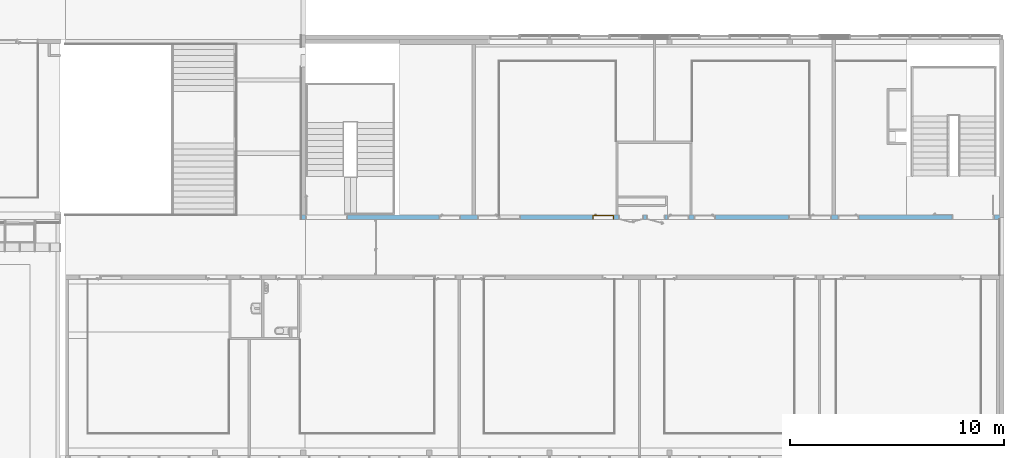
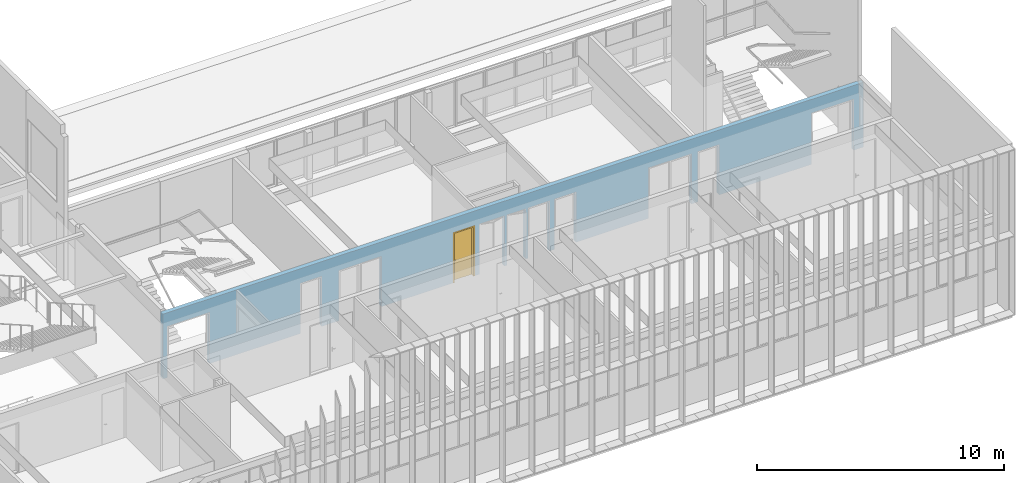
# One storey, part 84 of 106: 1 door, 13 openings, plus 1 element that does not belong to this part.
"""IFC2X3 building model written with IfcOpenShell, lengths in centimetres."""

import ifcopenshell
import ifcopenshell.guid

model = None  # the IFC model being written
_history = None  # IfcOwnerHistory: only IFC2X3 demands one
_inside = {}  # id of a spatial element -> (the spatial element, [elements in it])
_under = {}  # id of a project, library or spatial element -> (it, [spatial elements below it])
_declared = {}  # id of a project -> (the project, [libraries it declares])
_typed = {}  # id of a type object -> (the type object, [elements of that type])
_made_of = {}  # id of a material, layer set ... -> (it, [elements and type objects made of it])


def new_model(schema):
    """Start an empty IFC model of exactly this schema.

    Asked for "IFC4X3", IfcOpenShell would pick the latest addendum, in which some entities
    have other attributes; the version numbers below select the first issue.
    IFC2X3 requires an IfcOwnerHistory on every rooted entity: one is made here for all.
    """
    global model, _history
    if schema == "IFC4X3":
        model = ifcopenshell.file(schema_version=(4, 3, 0, 0))
    else:
        model = ifcopenshell.file(schema=schema)
    _inside.clear()
    _under.clear()
    _declared.clear()
    _typed.clear()
    _made_of.clear()
    _history = None
    if model.schema == "IFC2X3":
        org = make("IfcOrganization", Name="unknown")
        user = make(
            "IfcPersonAndOrganization",
            ThePerson=make("IfcPerson", FamilyName="unknown"),
            TheOrganization=org,
        )
        app = make(
            "IfcApplication",
            ApplicationDeveloper=org,
            Version="unknown",
            ApplicationFullName="unknown",
            ApplicationIdentifier="unknown",
        )
        _history = make(
            "IfcOwnerHistory",
            OwningUser=user,
            OwningApplication=app,
            ChangeAction="ADDED",
            CreationDate=0,
        )
    return model


def make(cls, **values):
    """One entity of the class cls with the attributes given. An attribute that is None is left unset."""
    return model.create_entity(
        cls, **{name: value for name, value in values.items() if value is not None}
    )


def entity(cls, *values):
    """Any entity or typed value of the class cls, its attributes in the order of the schema. None: left unset."""
    e = model.create_entity(cls)
    for i, value in enumerate(values):
        if value is not None:
            e[i] = value
    return e


def rooted(cls, **values):
    """An entity with a GlobalId (a new one), such as an element, a storey or a relation."""
    return make(cls, GlobalId=ifcopenshell.guid.new(), OwnerHistory=_history, **values)


def si_unit(unit_type, name, prefix=None):
    """IfcSIUnit, for example si_unit("LENGTHUNIT", "METRE", prefix="MILLI")."""
    return make("IfcSIUnit", UnitType=unit_type, Prefix=prefix, Name=name)


def converted_unit(unit_type, name, factor, base, dimensions=None, offset=None):
    """IfcConversionBasedUnit, such as the inch: factor (a typed value) times the base unit."""
    return make(
        "IfcConversionBasedUnit"
        if offset is None
        else "IfcConversionBasedUnitWithOffset",
        ConversionOffset=offset,
        Dimensions=None
        if dimensions is None
        else entity("IfcDimensionalExponents", *dimensions),
        UnitType=unit_type,
        Name=name,
        ConversionFactor=make(
            "IfcMeasureWithUnit", ValueComponent=factor, UnitComponent=base
        ),
    )


def derived_unit(unit_type, elements):
    """IfcDerivedUnit: a product of units, each with its exponent."""
    return make(
        "IfcDerivedUnit",
        Elements=[
            make("IfcDerivedUnitElement", Unit=unit, Exponent=power)
            for unit, power in elements
        ],
        UnitType=unit_type,
    )


def assignment(units):
    """IfcUnitAssignment: the units of a project."""
    return None if units is None else make("IfcUnitAssignment", Units=units)


def point(xyz):
    """IfcCartesianPoint."""
    return None if xyz is None else make("IfcCartesianPoint", Coordinates=xyz)


def direction(xyz):
    """IfcDirection."""
    return None if xyz is None else make("IfcDirection", DirectionRatios=xyz)


def frame(location, z_axis=None, x_axis=None):
    """IfcAxis2Placement3D, a coordinate frame: its origin and axes. An axis left out is left unset."""
    return make(
        "IfcAxis2Placement3D",
        Location=point(location),
        Axis=direction(z_axis),
        RefDirection=direction(x_axis),
    )


def frame_2d(location, x_axis=None):
    """IfcAxis2Placement2D, a coordinate frame in the plane: its origin and x axis."""
    return make(
        "IfcAxis2Placement2D", Location=point(location), RefDirection=direction(x_axis)
    )


def origin():
    """The frame at (0, 0, 0) with its axes left unset."""
    return frame((0.0, 0.0, 0.0))


def place(relative_to, where):
    """IfcLocalPlacement: puts the frame where relative to a parent placement (None: the world)."""
    return make(
        "IfcLocalPlacement", PlacementRelTo=relative_to, RelativePlacement=where
    )


def context(
    kind, dimensions, precision=None, world=None, true_north=None, identifier=None
):
    """IfcGeometricRepresentationContext, for example the 3D "Model" context."""
    return make(
        "IfcGeometricRepresentationContext",
        ContextIdentifier=identifier,
        ContextType=kind,
        CoordinateSpaceDimension=dimensions,
        Precision=precision,
        WorldCoordinateSystem=world,
        TrueNorth=true_north,
    )


def subcontext(parent, identifier, kind, view, scale=None):
    """IfcGeometricRepresentationSubContext, for example "Body" below "Model"."""
    return make(
        "IfcGeometricRepresentationSubContext",
        ContextIdentifier=identifier,
        ContextType=kind,
        ParentContext=parent,
        TargetScale=scale,
        TargetView=view,
    )


def project(units=None, contexts=None):
    """IfcProject with its units and contexts."""
    return rooted(
        "IfcProject",
        Name="project",
        RepresentationContexts=contexts,
        UnitsInContext=assignment(units),
    )


def spatial(cls, under=None, at=None, **own):
    """A site, building, storey or space (cls), placed at a placement, below another one or the project."""
    s = rooted(cls, ObjectPlacement=at, **own)
    if under is not None:
        _under.setdefault(under.id(), (under, []))[1].append(s)
    return s


def polyline(points):
    """IfcPolyline through the points."""
    return make("IfcPolyline", Points=[point(p) for p in points])


def profile(cls, at=None, kind="AREA", **sizes):
    """A parametric profile (cls). Its sizes go by their IFC names, for example OverallWidth=200.0."""
    return make(cls, ProfileType=kind, Position=at, **sizes)


def rectangle(**sizes):
    """IfcRectangleProfileDef."""
    return profile("IfcRectangleProfileDef", **sizes)


def extrude(swept, where, along, depth):
    """IfcExtrudedAreaSolid: the profile swept, set in the frame where, extruded along a direction by depth."""
    return make(
        "IfcExtrudedAreaSolid",
        SweptArea=swept,
        Position=where,
        ExtrudedDirection=direction(along),
        Depth=depth,
    )


def clip(a, b, op="DIFFERENCE"):
    """IfcBooleanClippingResult: the solid a cut by the half space b."""
    return make(
        "IfcBooleanClippingResult", Operator=op, FirstOperand=a, SecondOperand=b
    )


def bounded_halfspace(plane, agree, where, boundary):
    """IfcPolygonalBoundedHalfSpace: a half space limited to a polygon's prism."""
    return make(
        "IfcPolygonalBoundedHalfSpace",
        BaseSurface=make("IfcPlane", Position=plane),
        AgreementFlag=agree,
        Position=where,
        PolygonalBoundary=boundary,
    )


def faces_of(points, faces, orient=None, outer=None):
    """IfcFace entities. A face is a list of loops; a loop is a list of indices into points, from 0.

    orient and outer hold one flag for each loop. By default every Orientation is true, the
    first loop of a face is its IfcFaceOuterBound and the others are IfcFaceBound.
    """
    made = []
    for i, loops in enumerate(faces):
        bounds = []
        for j, loop in enumerate(loops):
            is_outer = j == 0 if outer is None else outer[i][j]
            bounds.append(
                make(
                    "IfcFaceOuterBound" if is_outer else "IfcFaceBound",
                    Bound=make("IfcPolyLoop", Polygon=[points[k] for k in loop]),
                    Orientation=True if orient is None else orient[i][j],
                )
            )
        made.append(make("IfcFace", Bounds=bounds))
    return made


def faceted_brep(points, faces, orient=None, outer=None, voids=None):
    """IfcFacetedBrep: a solid bounded by flat faces; with voids (closed shells), ...WithVoids."""
    shared = [point(p) for p in points]
    hull = make("IfcClosedShell", CfsFaces=faces_of(shared, faces, orient, outer))
    if voids is None:
        return make("IfcFacetedBrep", Outer=hull)
    return make(
        "IfcFacetedBrepWithVoids",
        Outer=hull,
        Voids=[
            make(cls, CfsFaces=faces_of(shared, fs, o, b)) for cls, fs, o, b in voids
        ],
    )


def shape(context_of_items, identifier, shape_type, items):
    """IfcShapeRepresentation: the items that make up one representation, for example the "Body"."""
    return make(
        "IfcShapeRepresentation",
        ContextOfItems=context_of_items,
        RepresentationIdentifier=identifier,
        RepresentationType=shape_type,
        Items=items,
    )


def source(mapping_origin, context_of_items, identifier, shape_type, items):
    """IfcRepresentationMap: a shape defined once, which mapped items show again and again."""
    return make(
        "IfcRepresentationMap",
        MappingOrigin=mapping_origin,
        MappedRepresentation=shape(context_of_items, identifier, shape_type, items),
    )


def transform(
    local_origin,
    x_axis=None,
    y_axis=None,
    z_axis=None,
    scale=None,
    scale2=None,
    scale3=None,
    uniform=True,
):
    """IfcCartesianTransformationOperator3D, or its non-uniform kind. x_axis, y_axis, z_axis: its Axis1, 2, 3."""
    if uniform:
        return make(
            "IfcCartesianTransformationOperator3D",
            Axis1=direction(x_axis),
            Axis2=direction(y_axis),
            LocalOrigin=point(local_origin),
            Scale=scale,
            Axis3=direction(z_axis),
        )
    return make(
        "IfcCartesianTransformationOperator3DnonUniform",
        Axis1=direction(x_axis),
        Axis2=direction(y_axis),
        LocalOrigin=point(local_origin),
        Scale=scale,
        Axis3=direction(z_axis),
        Scale2=scale2,
        Scale3=scale3,
    )


def mapped(mapping_source, mapping_target):
    """IfcMappedItem: shows the shape of a source again, moved by a transform."""
    return make(
        "IfcMappedItem", MappingSource=mapping_source, MappingTarget=mapping_target
    )


def material(Name=None, Category=None):
    """IfcMaterial."""
    return make("IfcMaterial", Name=Name, Category=Category)


def material_list(materials):
    """IfcMaterialList."""
    return make("IfcMaterialList", Materials=materials)


def layer(
    of_material, thickness, ventilated=None, Name=None, Category=None, Priority=None
):
    """IfcMaterialLayer: one layer of a wall or slab, of a material (None: an air gap)."""
    return make(
        "IfcMaterialLayer",
        Material=of_material,
        LayerThickness=thickness,
        IsVentilated=ventilated,
        Name=Name,
        Category=Category,
        Priority=Priority,
    )


def layer_set(layers, Name=None):
    """IfcMaterialLayerSet."""
    return make("IfcMaterialLayerSet", MaterialLayers=layers, LayerSetName=Name)


def layer_usage(for_layer_set, set_direction, sense, offset, extent=None):
    """IfcMaterialLayerSetUsage: how a layer set lies in its element."""
    return make(
        "IfcMaterialLayerSetUsage",
        ForLayerSet=for_layer_set,
        LayerSetDirection=set_direction,
        DirectionSense=sense,
        OffsetFromReferenceLine=offset,
        ReferenceExtent=extent,
    )


def made_of(thing, what):
    """Note that an element or type object is made of a material, layer set ...; save() writes the relation."""
    if what is not None:
        _made_of.setdefault(what.id(), (what, []))[1].append(thing)
    return thing


def type_object(cls, material=None, **own):
    """A type object (cls), such as IfcWallType, which elements share."""
    return made_of(rooted(cls, **own), material)


def type_shapes(of_type, sources):
    """Give a type object the sources (RepresentationMaps) that its elements show as mapped items."""
    of_type.RepresentationMaps = sources


def element(
    cls,
    number,
    at=None,
    inside=None,
    cuts=None,
    type_object=None,
    material=None,
    context=None,
    identifier="Body",
    shape_type=None,
    held_by="IfcProductDefinitionShape",
    body=None,
    shapes=None,
    **own,
):
    """One element of the class cls, such as IfcWall. Its Tag is "e" and its number.

    at: its placement. inside: the storey or other place that contains it. cuts: it is an
    opening in that element (IfcRelVoidsElement). A single representation is given by context,
    identifier, shape_type and body (its items); several are given by shapes. held_by: the class
    of the entity that holds the representations. save() writes the other relations.
    """
    e = rooted(cls, Tag="e%d" % number, ObjectPlacement=at, **own)
    if body is not None:
        shapes = [shape(context, identifier, shape_type, body)]
    if shapes is not None:
        e.Representation = make(held_by, Representations=shapes)
    if inside is not None:
        _inside.setdefault(inside.id(), (inside, []))[1].append(e)
    if cuts is not None:
        rooted(
            "IfcRelVoidsElement", RelatingBuildingElement=cuts, RelatedOpeningElement=e
        )
    if type_object is not None:
        _typed.setdefault(type_object.id(), (type_object, []))[1].append(e)
    return made_of(e, material)


def fill(opening, filler):
    """IfcRelFillsElement: the door or window that sits in an opening."""
    return rooted(
        "IfcRelFillsElement",
        RelatingOpeningElement=opening,
        RelatedBuildingElement=filler,
    )


def aggregate(whole, parts):
    """IfcRelAggregates: a whole, such as a stair, and the parts it consists of."""
    return rooted("IfcRelAggregates", RelatingObject=whole, RelatedObjects=parts)


def save(model, path):
    """Write the relations noted so far, then the file.

    IfcRelAggregates (storeys below a building ...), IfcRelContainedInSpatialStructure (elements
    in a storey), IfcRelDefinesByType, IfcRelAssociatesMaterial and IfcRelDeclares: one each for
    every whole, place, type object, material and project.
    """
    for whole, parts in _under.values():
        aggregate(whole, parts)
    for where, things in _inside.values():
        rooted(
            "IfcRelContainedInSpatialStructure",
            RelatedElements=things,
            RelatingStructure=where,
        )
    for kind, things in _typed.values():
        rooted("IfcRelDefinesByType", RelatedObjects=things, RelatingType=kind)
    for what, things in _made_of.values():
        rooted("IfcRelAssociatesMaterial", RelatedObjects=things, RelatingMaterial=what)
    for by, libraries in _declared.values():
        rooted("IfcRelDeclares", RelatingContext=by, RelatedDefinitions=libraries)
    model.write(path)


model = new_model("IFC2X3")

# Units and contexts
model_context = context("Model", 3, precision=0.001, world=origin(), true_north=direction((6.12303176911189e-17, 1.0)))
body_context = subcontext(model_context, "Body", "Model", "MODEL_VIEW")
ifc_project = project(units=[si_unit("LENGTHUNIT", "METRE", prefix="CENTI"), si_unit("AREAUNIT", "SQUARE_METRE"), si_unit("VOLUMEUNIT", "CUBIC_METRE"), converted_unit("PLANEANGLEUNIT", "DEGREE", entity("IfcRatioMeasure", 0.0174532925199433), si_unit("PLANEANGLEUNIT", "RADIAN"), dimensions=[0, 0, 0, 0, 0, 0, 0]), si_unit("MASSUNIT", "GRAM", prefix="KILO"), derived_unit("MASSDENSITYUNIT", [(si_unit("MASSUNIT", "GRAM", prefix="KILO"), 1), (si_unit("LENGTHUNIT", "METRE"), -3)]), si_unit("TIMEUNIT", "SECOND"), si_unit("FREQUENCYUNIT", "HERTZ"), si_unit("THERMODYNAMICTEMPERATUREUNIT", "DEGREE_CELSIUS"), derived_unit("THERMALTRANSMITTANCEUNIT", [(si_unit("MASSUNIT", "GRAM", prefix="KILO"), 1), (si_unit("THERMODYNAMICTEMPERATUREUNIT", "KELVIN"), -1), (si_unit("TIMEUNIT", "SECOND"), -3)]), derived_unit("VOLUMETRICFLOWRATEUNIT", [(si_unit("LENGTHUNIT", "METRE"), 3), (si_unit("TIMEUNIT", "SECOND"), -1)]), si_unit("ELECTRICCURRENTUNIT", "AMPERE"), si_unit("ELECTRICVOLTAGEUNIT", "VOLT"), si_unit("POWERUNIT", "WATT"), si_unit("FORCEUNIT", "NEWTON", prefix="KILO"), si_unit("ILLUMINANCEUNIT", "LUX"), si_unit("LUMINOUSFLUXUNIT", "LUMEN"), si_unit("LUMINOUSINTENSITYUNIT", "CANDELA"), derived_unit("USERDEFINED", [(si_unit("MASSUNIT", "GRAM", prefix="KILO"), -1), (si_unit("LENGTHUNIT", "METRE"), -2), (si_unit("TIMEUNIT", "SECOND"), 3), (si_unit("LUMINOUSFLUXUNIT", "LUMEN"), 1)]), derived_unit("LINEARVELOCITYUNIT", [(si_unit("LENGTHUNIT", "METRE"), 1), (si_unit("TIMEUNIT", "SECOND"), -1)]), si_unit("PRESSUREUNIT", "PASCAL"), derived_unit("USERDEFINED", [(si_unit("LENGTHUNIT", "METRE"), -2), (si_unit("MASSUNIT", "GRAM", prefix="KILO"), 1), (si_unit("TIMEUNIT", "SECOND"), -2)])], contexts=[model_context])

# Site, building, storey
site_placement = place(None, frame((-2781.94577612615, 7442.24238424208, 0.0)))
site = spatial("IfcSite", under=ifc_project, at=site_placement, Name="Default", CompositionType="ELEMENT")
building_placement = place(site_placement, origin())
building = spatial("IfcBuilding", under=site, at=building_placement, CompositionType="ELEMENT")
storey_placement = place(building_placement, frame((0.0, 0.0, 422.0)))
storey = spatial("IfcBuildingStorey", under=building, at=storey_placement, Name="Toiture - Cuisine", CompositionType="ELEMENT", Elevation=421.999999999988)

# Wall, openings, door
ifc_material_1 = material(Name="01 - Maçonnerie")
ifc_layer = layer(ifc_material_1, 20.0)
ifc_layer_set = layer_set([ifc_layer], Name="Mur de base:04 - Structure - béton - 20cm")
ifc_layer_usage = layer_usage(ifc_layer_set, "AXIS2", "NEGATIVE", 10.0)
wall_type = type_object("IfcWallType", Name="Mur de base:04 - Structure - béton - 20cm", PredefinedType="STANDARD", material=ifc_layer_set)
wall_placement = place(building_placement, frame((-3667.99987968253, -1920.07903364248, 422.0)))
wall = element("IfcWallStandardCase", 1, at=wall_placement, inside=storey, type_object=wall_type, material=ifc_layer_usage, Name="Mur de base:04 - Structure - béton - 20cm", ObjectType="Mur de base:04 - Structure - béton - 20cm", context=body_context, shape_type="Clipping", body=[
    clip(clip(extrude(rectangle(XDim=3277.99999684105, YDim=19.9999999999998, at=frame_2d((1638.99999842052, 6.21724893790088e-14), x_axis=(-1.0, 0.0))), origin(), (0.0, 0.0, 1.0), 321.0), bounded_halfspace(frame((0.0, -10.0, 321.0), z_axis=(0.0, 0.0, -1.0), x_axis=(0.0, 1.0, 0.0)), True, frame((0.0, -10.0, 321.0)), polyline([(0.0, 0.0), (20.0, 0.0), (20.0, 20.0), (0.0, 20.0), (0.0, 0.0)]))), bounded_halfspace(frame((458.699996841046, -10.0, 321.0), z_axis=(0.0, 0.0, -1.0), x_axis=(0.0, 1.0, 0.0)), True, frame((458.699996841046, -10.0, 321.0)), polyline([(0.0, 0.0), (2797.3, 0.0), (2799.29999999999, 0.0), (2799.29999999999, 10.0), (2799.29999999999, 20.0), (2034.0, 20.0), (2018.0, 20.0), (1914.0, 20.0), (1912.0, 20.0), (1363.8, 20.0), (1353.8, 20.0), (1249.8, 20.0), (1239.8, 20.0), (1149.8, 20.0), (1139.8, 20.0), (1019.8, 20.0), (1009.8, 20.0), (466.0, 20.0), (464.0, 20.0), (0.0, 20.0), (0.0, 0.0)]))),
])
opening_1_placement = place(wall_placement, frame((2502.69999684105, -10.0, 0.0)))
element("IfcOpeningElement", 2, at=opening_1_placement, cuts=wall, Name="Int. Simple:PP simple (0.93m x 2.50m):1", ObjectType="Opening", context=body_context, shape_type="SweptSolid", body=[
    extrude(rectangle(XDim=248.500000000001, YDim=99.9999999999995, at=frame_2d((124.250000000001, 49.9999999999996), x_axis=(1.0, 0.0))), frame((0.0, 0.0, 0.0), z_axis=(0.0, 1.0, 0.0), x_axis=(0.0, 0.0, 1.0)), (0.0, 0.0, 1.0), 20.0),
])
opening_2_placement = place(wall_placement, frame((2372.69999684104, -10.0, 0.0)))
element("IfcOpeningElement", 3, at=opening_2_placement, cuts=wall, Name="Int. Simple:PV (0.93m x 2.50m):1", ObjectType="Opening", context=body_context, shape_type="SweptSolid", body=[
    extrude(rectangle(XDim=248.500000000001, YDim=99.9999999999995, at=frame_2d((124.250000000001, 49.9999999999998), x_axis=(1.0, 0.0))), frame((0.0, 0.0, 0.0), z_axis=(0.0, 1.0, 0.0), x_axis=(0.0, 0.0, 1.0)), (0.0, 0.0, 1.0), 20.0),
])
opening_3_placement = place(wall_placement, frame((1832.49999684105, -10.0, 0.0)))
element("IfcOpeningElement", 4, at=opening_3_placement, cuts=wall, Name="Int. Simple:PV (0.93m x 2.50m):1", ObjectType="Opening", context=body_context, shape_type="SweptSolid", body=[
    extrude(rectangle(XDim=248.500000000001, YDim=99.9999999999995, at=frame_2d((124.250000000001, 49.9999999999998), x_axis=(1.0, 0.0))), frame((0.0, 0.0, 0.0), z_axis=(0.0, 1.0, 0.0), x_axis=(0.0, 0.0, 1.0)), (0.0, 0.0, 1.0), 20.0),
])
opening_4_placement = place(wall_placement, frame((1708.49999684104, -10.0, 0.0)))
element("IfcOpeningElement", 5, at=opening_4_placement, cuts=wall, Name="Int. Simple:PP simple (0.93m x 2.50m):1", ObjectType="Opening", context=body_context, shape_type="SweptSolid", body=[
    extrude(rectangle(XDim=248.500000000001, YDim=99.9999999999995, at=frame_2d((124.250000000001, 49.9999999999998), x_axis=(1.0, 0.0))), frame((0.0, 0.0, 0.0), z_axis=(0.0, 1.0, 0.0), x_axis=(0.0, 0.0, 1.0)), (0.0, 0.0, 1.0), 20.0),
])
opening_5_placement = place(wall_placement, frame((1358.49999684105, -10.0, 0.0)))
opening_5 = element("IfcOpeningElement", 6, at=opening_5_placement, cuts=wall, Name="Int. Simple:PV (0.93m x 2.50m):1", ObjectType="Opening", context=body_context, shape_type="SweptSolid", body=[
    extrude(rectangle(XDim=248.500000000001, YDim=99.9999999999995, at=frame_2d((124.250000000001, 49.9999999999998), x_axis=(1.0, 0.0))), frame((0.0, 0.0, 0.0), z_axis=(0.0, 1.0, 0.0), x_axis=(0.0, 0.0, 1.0)), (0.0, 0.0, 1.0), 20.0),
])
opening_6_placement = place(wall_placement, frame((822.699996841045, -10.0, 0.0)))
element("IfcOpeningElement", 7, at=opening_6_placement, cuts=wall, Name="Int. Simple:PV (0.93m x 2.50m):1", ObjectType="Opening", context=body_context, shape_type="SweptSolid", body=[
    extrude(rectangle(XDim=248.500000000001, YDim=99.9999999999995, at=frame_2d((124.250000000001, 49.9999999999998), x_axis=(1.0, 0.0))), frame((0.0, 0.0, 0.0), z_axis=(0.0, 1.0, 0.0), x_axis=(0.0, 0.0, 1.0)), (0.0, 0.0, 1.0), 20.0),
])
opening_7_placement = place(wall_placement, frame((642.699996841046, -10.0, 0.0)))
element("IfcOpeningElement", 8, at=opening_7_placement, cuts=wall, Name="Int. Simple:PP simple (0.93m x 2.50m):1", ObjectType="Opening", context=body_context, shape_type="SweptSolid", body=[
    extrude(rectangle(XDim=248.500000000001, YDim=99.9999999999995, at=frame_2d((124.250000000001, 49.9999999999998), x_axis=(1.0, 0.0))), frame((0.0, 0.0, 0.0), z_axis=(0.0, 1.0, 0.0), x_axis=(0.0, 0.0, 1.0)), (0.0, 0.0, 1.0), 20.0),
])
opening_8_placement = place(wall_placement, frame((2272.69999684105, -10.0, 0.0)))
element("IfcOpeningElement", 9, at=opening_8_placement, cuts=wall, Name="châssis intérieur vitré:châssis intérieur vitré (h=270) R+1:1", ObjectType="Opening", context=body_context, shape_type="SweptSolid", body=[
    extrude(rectangle(XDim=250.0, YDim=99.9999999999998, at=frame_2d((125.0, 49.9999999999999), x_axis=(1.0, 0.0))), frame((0.0, 0.0, 0.0), z_axis=(0.0, 1.0, 0.0), x_axis=(0.0, 0.0, 1.0)), (0.0, 0.0, 1.0), 20.0),
])
opening_9_placement = place(wall_placement, frame((922.699996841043, -10.0, 0.0)))
element("IfcOpeningElement", 10, at=opening_9_placement, cuts=wall, Name="châssis intérieur vitré:châssis intérieur vitré (h=270) R+1:1", ObjectType="Opening", context=body_context, shape_type="SweptSolid", body=[
    extrude(rectangle(XDim=250.0, YDim=99.9999999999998, at=frame_2d((125.0, 49.9999999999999), x_axis=(1.0, 0.0))), frame((0.0, 0.0, 0.0), z_axis=(0.0, 1.0, 0.0), x_axis=(0.0, 0.0, 1.0)), (0.0, 0.0, 1.0), 20.0),
])
opening_10_placement = place(wall_placement, frame((1697.0, 10.0, 0.0)))
element("IfcOpeningElement", 11, at=opening_10_placement, cuts=wall, Name="Int. Simple:PP Placard (0.80m x 2.50m):1", ObjectType="Opening", context=body_context, shape_type="SweptSolid", body=[
    extrude(rectangle(XDim=248.500000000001, YDim=86.9999999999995, at=frame_2d((124.250000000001, 43.4999999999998), x_axis=(1.0, 0.0))), frame((0.0, 0.0, 0.0), z_axis=(0.0, -1.0, 0.0), x_axis=(0.0, 0.0, 1.0)), (0.0, 0.0, 1.0), 20.0),
])
opening_11_placement = place(wall_placement, frame((1597.0, 10.0, 0.0)))
element("IfcOpeningElement", 12, at=opening_11_placement, cuts=wall, Name="Int. Double:PP Placard (1.10m x 2.50m):1", ObjectType="Opening", context=body_context, shape_type="SweptSolid", body=[
    extrude(rectangle(XDim=248.500000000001, YDim=117.0, at=frame_2d((124.250000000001, 58.5000000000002), x_axis=(1.0, 0.0))), frame((0.0, 0.0, 0.0), z_axis=(0.0, -1.0, 0.0), x_axis=(0.0, 0.0, 1.0)), (0.0, 0.0, 1.0), 20.0),
])
opening_12_placement = place(wall_placement, frame((3035.69999684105, -10.0, 0.0)))
element("IfcOpeningElement", 13, at=opening_12_placement, cuts=wall, Name="Int. Double:PP (1.90m x 2.50m):1", ObjectType="Opening", context=body_context, shape_type="SweptSolid", body=[
    extrude(rectangle(XDim=253.500000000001, YDim=197.0, at=frame_2d((126.750000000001, 98.5000000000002), x_axis=(1.0, 0.0))), frame((0.0, 0.0, 0.0), z_axis=(0.0, 1.0, 0.0), x_axis=(0.0, 0.0, 1.0)), (0.0, 0.0, 1.0), 20.0),
])
opening_13_placement = place(wall_placement, frame((20.0, -10.0, 0.0)))
element("IfcOpeningElement", 14, at=opening_13_placement, cuts=wall, Name="Int. Double:PP (1.90m x 2.50m):1", ObjectType="Opening", context=body_context, shape_type="SweptSolid", body=[
    extrude(rectangle(XDim=253.500000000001, YDim=197.0, at=frame_2d((126.750000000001, 98.5), x_axis=(1.0, 0.0))), frame((0.0, 0.0, 0.0), z_axis=(0.0, 1.0, 0.0), x_axis=(0.0, 0.0, 1.0)), (0.0, 0.0, 1.0), 20.0),
])
ifc_material_2 = material(Name="Finition Peinture - Blanc satiné")
ifc_material_3 = material(Name="Bois - Panneau de porte")
ifc_material_4 = material(Name="Bois - Cadre de porte")
ifc_material_list_1 = material_list([ifc_material_2, ifc_material_3, ifc_material_4])
ifc_material_list_2 = material_list([ifc_material_2, ifc_material_3, ifc_material_4])
door_style = type_object("IfcDoorStyle", Name="PV (0.93m x 2.50m)", ConstructionType="NOTDEFINED", OperationType="SINGLE_SWING_RIGHT", ParameterTakesPrecedence=False, Sizeable=False, material=ifc_material_list_2)
shared_shape = source(origin(), body_context, "Body", "Brep", [
    faceted_brep([(99.5000000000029, -0.500000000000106, 87.0), (99.5000000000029, -0.500000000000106, 108.0), (98.535276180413, -0.500000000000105, 108.399601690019), (97.5000000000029, -0.500000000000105, 108.535898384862), (96.4647238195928, -0.500000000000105, 108.399601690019), (95.500000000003, -0.500000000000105, 108.0), (95.5000000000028, -0.500000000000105, 87.0), (96.4647238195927, -0.500000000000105, 86.6003983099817), (97.5000000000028, -0.500000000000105, 86.464101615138), (98.5352761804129, -0.500000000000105, 86.6003983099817), (99.5000000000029, 0.0, 108.0), (99.5000000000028, 0.0, 87.0), (98.5352761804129, 0.0, 86.6003983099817), (97.5000000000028, 0.0, 86.464101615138), (96.4647238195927, 0.0, 86.6003983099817), (95.5000000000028, 0.0, 87.0), (95.5000000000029, 0.0, 108.0), (96.4647238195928, 0.0, 108.399601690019), (97.5000000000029, 0.0, 108.535898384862), (98.535276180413, 0.0, 108.399601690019)], [[[0, 1, 2, 3, 4, 5, 6, 7, 8, 9]], [[10, 11, 12, 13, 14, 15, 16, 17, 18, 19]], [[9, 12, 11, 0]], [[8, 13, 12, 9]], [[7, 14, 13, 8]], [[7, 6, 15, 14]], [[15, 6, 5, 16]], [[4, 17, 16, 5]], [[3, 18, 17, 4]], [[2, 19, 18, 3]], [[2, 1, 10, 19]], [[11, 10, 1, 0]]]),
    faceted_brep([(99.5000000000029, 4.0, 87.0), (99.5000000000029, 4.0, 108.0), (98.535276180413, 4.0, 108.399601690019), (97.5000000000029, 4.0, 108.535898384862), (96.4647238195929, 4.0, 108.399601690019), (95.500000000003, 4.0, 108.0), (95.5000000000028, 4.0, 87.0), (96.4647238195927, 4.0, 86.6003983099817), (97.5000000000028, 4.0, 86.464101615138), (98.5352761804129, 4.0, 86.6003983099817), (97.5000000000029, 4.49999999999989, 108.535898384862), (98.535276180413, 4.49999999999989, 108.399601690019), (99.5000000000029, 4.49999999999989, 108.0), (99.5000000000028, 4.49999999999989, 87.0), (98.5352761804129, 4.49999999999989, 86.6003983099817), (97.5000000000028, 4.49999999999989, 86.464101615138), (96.4647238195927, 4.49999999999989, 86.6003983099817), (95.5000000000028, 4.49999999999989, 87.0), (95.500000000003, 4.49999999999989, 108.0), (96.4647238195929, 4.49999999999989, 108.399601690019)], [[[0, 1, 2, 3, 4, 5, 6, 7, 8, 9]], [[10, 11, 12, 13, 14, 15, 16, 17, 18, 19]], [[4, 19, 18, 5]], [[3, 10, 19, 4]], [[2, 11, 10, 3]], [[2, 1, 12, 11]], [[13, 12, 1, 0]], [[9, 14, 13, 0]], [[8, 15, 14, 9]], [[7, 16, 15, 8]], [[7, 6, 17, 16]], [[17, 6, 5, 18]]]),
    faceted_brep([(97.2974701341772, -0.500000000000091, 100.778044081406), (97.7025298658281, -0.500000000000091, 100.778044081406), (98.1000000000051, -0.500000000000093, 100.699999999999), (98.100000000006, -0.500000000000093, 99.2999999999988), (97.7025298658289, -0.500000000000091, 99.221955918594), (97.297470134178, -0.500000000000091, 99.2219559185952), (96.9000000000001, -0.500000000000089, 99.3000000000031), (96.9000000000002, -0.500000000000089, 100.7), (97.7025298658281, -3.10045754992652, 100.778044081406), (98.1000000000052, -3.26509507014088, 100.7), (97.2974701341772, -2.93267631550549, 100.778044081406), (95.9298602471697, -4.30028620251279, 100.778044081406), (96.0976414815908, -4.70534593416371, 100.778044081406), (96.9000000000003, -2.76803879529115, 100.7), (96.9000000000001, -2.76803879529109, 99.3000000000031), (97.297470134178, -2.93267631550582, 99.2219559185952), (97.7025298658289, -3.10045754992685, 99.221955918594), (96.0976414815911, -4.70534593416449, 99.221955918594), (95.9298602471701, -4.30028620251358, 99.2219559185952), (98.100000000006, -3.26509507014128, 99.2999999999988), (96.2622790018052, -5.1028160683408, 100.7), (95.7652227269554, -3.90281606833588, 100.7), (95.7652227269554, -3.90281606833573, 99.3000000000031), (96.2622790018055, -5.10281606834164, 99.2999999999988), (87.4981359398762, -5.10281606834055, 100.7), (87.4981359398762, -4.70534593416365, 100.778044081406), (87.4981359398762, -4.30028620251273, 100.778044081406), (87.4981359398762, -3.90281606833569, 100.699999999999), (87.4981359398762, -3.90281606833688, 99.3000000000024), (87.4981359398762, -4.30028620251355, 99.2219559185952), (87.4981359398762, -4.70534593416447, 99.221955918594), (87.4981359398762, -5.10281606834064, 99.2999999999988), (91.7139980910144, -4.5028160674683, 100.78786867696), (92.2692302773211, -5.1028160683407, 100.7), (91.6316793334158, -3.9028160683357, 100.7), (91.631679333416, -3.90281606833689, 99.3000000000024), (91.7139981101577, -4.50281607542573, 99.2121313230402), (92.2692310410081, -5.10281606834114, 99.2999999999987)], [[[0, 1, 2, 3, 4, 5, 6, 7]], [[2, 1, 8, 9]], [[1, 0, 10, 11, 12, 8]], [[0, 7, 13, 10]], [[14, 13, 7, 6]], [[5, 15, 14, 6]], [[5, 4, 16, 17, 18, 15]], [[3, 19, 16, 4]], [[9, 19, 3, 2]], [[9, 8, 12, 20]], [[10, 13, 21, 11]], [[22, 21, 13, 14]], [[14, 15, 18, 22]], [[16, 19, 23, 17]], [[20, 23, 19, 9]], [[24, 25, 26, 27, 28, 29, 30, 31]], [[32, 25, 33]], [[33, 25, 24]], [[33, 20, 12]], [[11, 34, 32]], [[34, 11, 21]], [[27, 26, 34]], [[32, 26, 25]], [[32, 34, 26]], [[32, 33, 12]], [[11, 32, 12]], [[21, 22, 35, 28, 27, 34]], [[36, 29, 35]], [[30, 36, 37]], [[18, 35, 22]], [[29, 28, 35]], [[30, 37, 31]], [[37, 17, 23]], [[36, 17, 37]], [[36, 18, 17]], [[36, 35, 18]], [[29, 36, 30]], [[23, 20, 33, 24, 31, 37]]]),
    faceted_brep([(97.2974701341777, 4.49999999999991, 99.2219559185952), (97.7025298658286, 4.49999999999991, 99.221955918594), (98.1000000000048, 4.4999999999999, 99.2999999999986), (98.1000000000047, 4.4999999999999, 100.7), (97.7025298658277, 4.49999999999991, 100.778044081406), (97.2974701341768, 4.49999999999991, 100.778044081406), (96.8999999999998, 4.49999999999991, 100.7), (96.900000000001, 4.49999999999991, 99.3000000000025), (96.8999999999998, 6.7485204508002, 100.7), (96.8999999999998, 6.74852045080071, 99.3000000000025), (97.2974701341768, 6.91315797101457, 100.778044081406), (97.7025298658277, 7.0809392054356, 100.778044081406), (96.0838906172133, 8.69957845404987, 100.778044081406), (95.9161093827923, 8.29451872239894, 100.778044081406), (98.1000000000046, 7.24557672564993, 100.7), (98.1000000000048, 7.24557672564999, 99.2999999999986), (97.7025298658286, 7.08093920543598, 99.221955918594), (97.2974701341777, 6.91315797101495, 99.2219559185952), (95.9161093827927, 8.29451872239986, 99.2219559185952), (96.0838906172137, 8.69957845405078, 99.221955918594), (95.751471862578, 7.89704858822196, 100.7), (95.7514718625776, 7.89704858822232, 99.3000000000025), (96.2485281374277, 9.09704858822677, 100.7), (96.2485281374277, 9.09704858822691, 99.2999999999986), (87.4954216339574, 8.29451872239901, 100.778044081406), (87.4954216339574, 8.69957845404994, 100.778044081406), (87.4954216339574, 9.09704858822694, 100.7), (87.4954216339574, 9.09704858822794, 99.2999999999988), (87.4954216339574, 8.6995784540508, 99.221955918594), (87.4954216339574, 8.29451872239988, 99.2219559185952), (87.4954216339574, 7.89704858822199, 99.3000000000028), (87.4954216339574, 7.89704858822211, 100.7), (91.6234467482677, 7.89704858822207, 100.7), (91.6234479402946, 7.89704858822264, 99.3000000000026), (91.7057655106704, 8.49704858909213, 100.78786867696), (92.255479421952, 9.09704858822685, 100.7), (92.2554795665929, 9.09704858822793, 99.2999999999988), (91.7057654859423, 8.49704858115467, 99.2121313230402)], [[[0, 1, 2, 3, 4, 5, 6, 7]], [[8, 9, 7, 6]], [[5, 10, 8, 6]], [[5, 4, 11, 12, 13, 10]], [[3, 14, 11, 4]], [[14, 3, 2, 15]], [[2, 1, 16, 15]], [[1, 0, 17, 18, 19, 16]], [[0, 7, 9, 17]], [[20, 21, 9, 8]], [[8, 10, 13, 20]], [[14, 22, 12, 11]], [[23, 22, 14, 15]], [[15, 16, 19, 23]], [[17, 9, 21, 18]], [[24, 25, 26, 27, 28, 29, 30, 31]], [[21, 20, 32, 31, 30, 33]], [[34, 24, 32]], [[25, 34, 35]], [[13, 32, 20]], [[24, 31, 32]], [[25, 35, 26]], [[35, 12, 22]], [[34, 12, 35]], [[34, 13, 12]], [[34, 32, 13]], [[24, 34, 25]], [[22, 23, 36, 27, 26, 35]], [[37, 28, 36]], [[36, 28, 27]], [[36, 23, 19]], [[18, 33, 37]], [[33, 18, 21]], [[30, 29, 33]], [[37, 29, 28]], [[37, 33, 29]], [[37, 36, 19]], [[18, 37, 19]]]),
    faceted_brep([(103.500000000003, 4.0, 245.0), (103.500000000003, 4.0, 0.0), (10.5000000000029, 4.0, 0.0), (10.5000000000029, 4.0, 245.0), (103.500000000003, 0.0, 245.0), (10.5000000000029, 0.0, 245.0), (10.5000000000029, 0.0, 0.0), (103.500000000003, 0.0, 0.0)], [[[0, 1, 2, 3]], [[4, 5, 6, 7]], [[3, 5, 4, 0]], [[2, 6, 5, 3]], [[1, 7, 6, 2]], [[0, 4, 7, 1]]]),
    faceted_brep([(107.0, 20.0, 0.0), (107.0, 0.0, 0.0), (108.500000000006, 0.0, 0.0), (108.500000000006, -0.500000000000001, 0.0), (103.500000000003, -0.500000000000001, 0.0), (103.500000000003, 4.0, 0.0), (102.0, 4.0, 0.0), (102.0, 20.5000000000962, 0.0), (108.500000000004, 20.5000000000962, 0.0), (108.500000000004, 20.0, 0.0), (108.500000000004, 20.0, 250.0), (5.50000000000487, 20.0, 250.0), (5.50000000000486, 20.0, 0.0), (7.0, 20.0, 0.0), (7.0, 20.0, 248.500000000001), (107.0, 20.0, 248.500000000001), (108.500000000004, 20.5000000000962, 250.0), (102.0, 20.5000000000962, 243.5), (12.0, 20.5000000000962, 243.5), (12.0, 20.5000000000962, 0.0), (5.50000000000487, 20.5000000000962, 0.0), (5.50000000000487, 20.5000000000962, 250.0), (102.0, 4.0, 243.5), (103.500000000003, 4.0, 245.0), (10.5000000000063, 4.0, 245.0), (10.5000000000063, 4.0, 0.0), (12.0, 4.0, 0.0), (12.0, 4.0, 243.5), (103.500000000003, -0.500000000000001, 245.0), (108.500000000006, -0.500000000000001, 250.0), (5.5000000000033, -0.500000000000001, 250.0), (5.50000000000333, -0.500000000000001, 0.0), (10.5000000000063, -0.500000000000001, 0.0), (10.5000000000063, -0.500000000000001, 245.0), (108.500000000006, 0.0, 250.0), (107.0, 0.0, 248.500000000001), (7.0, 0.0, 248.500000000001), (7.0, 0.0, 0.0), (5.5000000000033, 0.0, 0.0), (5.50000000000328, 0.0, 250.0)], [[[0, 1, 2, 3, 4, 5, 6, 7, 8, 9]], [[9, 10, 11, 12, 13, 14, 15, 0]], [[8, 16, 10, 9]], [[7, 17, 18, 19, 20, 21, 16, 8]], [[7, 6, 22, 17]], [[5, 23, 24, 25, 26, 27, 22, 6]], [[5, 4, 28, 23]], [[3, 29, 30, 31, 32, 33, 28, 4]], [[2, 34, 29, 3]], [[1, 35, 36, 37, 38, 39, 34, 2]], [[0, 15, 35, 1]], [[14, 13, 37, 36]], [[13, 12, 20, 19, 26, 25, 32, 31, 38, 37]], [[21, 20, 12, 11]], [[27, 26, 19, 18]], [[33, 32, 25, 24]], [[39, 38, 31, 30]], [[16, 21, 11, 10]], [[22, 27, 18, 17]], [[28, 33, 24, 23]], [[34, 39, 30, 29]], [[15, 14, 36, 35]]]),
])
type_shapes(door_style, [shared_shape])
door_placement = place(opening_5_placement, frame((107.0, 20.0, 0.0), z_axis=(0.0, 0.0, 1.0), x_axis=(-1.0, 0.0, 0.0)))
door = element("IfcDoor", 15, at=door_placement, inside=storey, type_object=door_style, material=ifc_material_list_1, Name="Int. Simple:PV (0.93m x 2.50m)", ObjectType="Int. Simple:PV (0.93m x 2.50m)", OverallHeight=248.500000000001, OverallWidth=99.9999999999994, context=body_context, shape_type="MappedRepresentation", body=[
    mapped(shared_shape, transform((0.0, 0.0, 0.0), scale=1.0)),
])
fill(opening_5, door)

save(model, "model.ifc")
